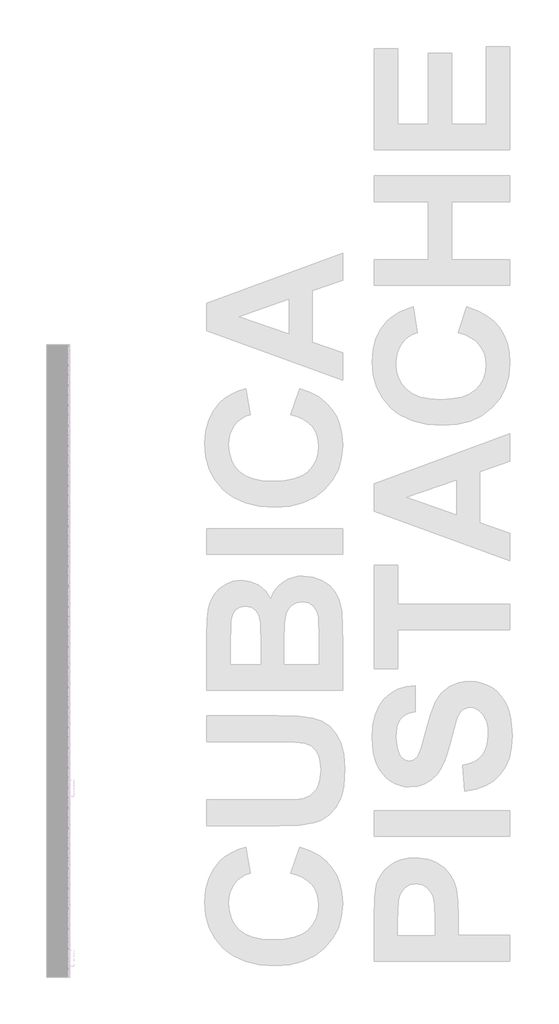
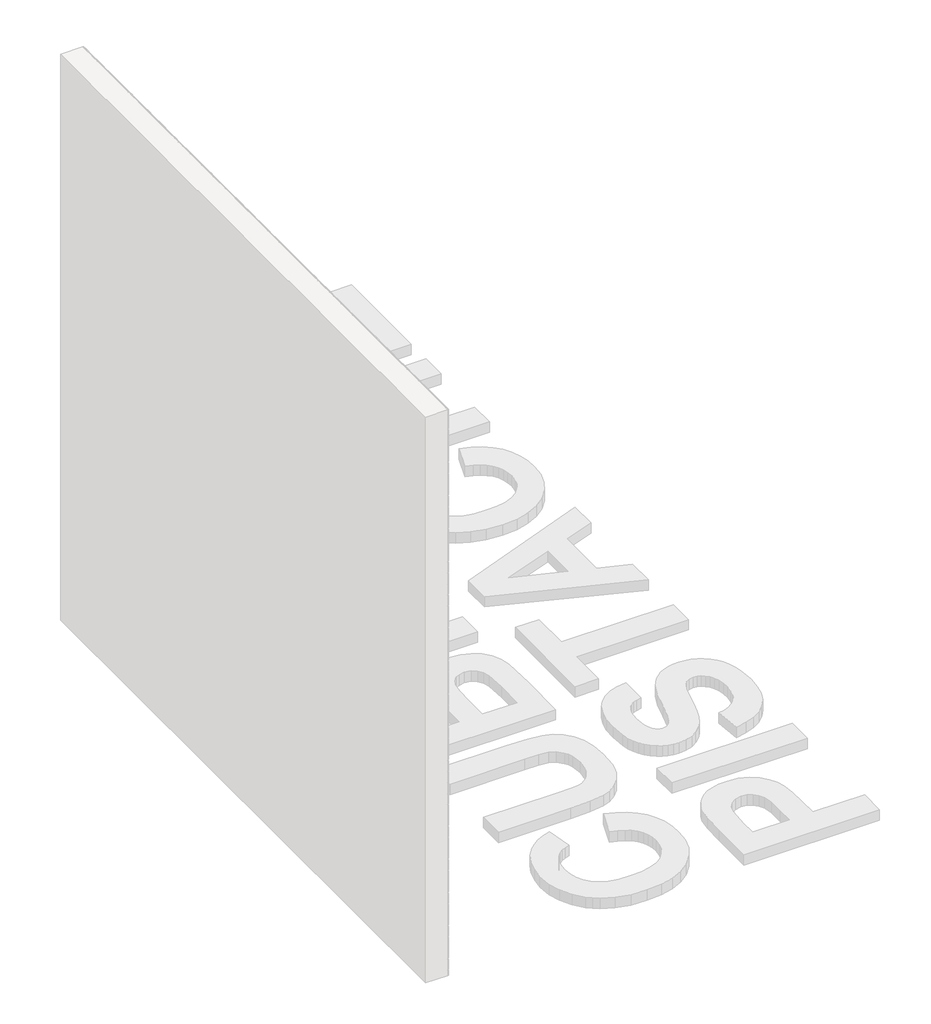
# One storey, part 90 of 121: 145 proxies.
"""IFC4 building model written with IfcOpenShell, lengths in millimetres."""

from ifc_helpers import new_model, si_unit, origin, place, context, project, spatial, transform, mapped, element, save
from components import generic_models_b2b2c5c1, generic_models_9bf73f6f, generic_models_5d175859

model = new_model("IFC4")

# Units and contexts
model_context = context("Model", 3, world=origin())
ifc_project = project(units=[si_unit("LENGTHUNIT", "METRE", prefix="MILLI")], contexts=[model_context])

# Site, building, storey
site = spatial("IfcSite", under=ifc_project)
building = spatial("IfcBuilding", under=site)
storey = spatial("IfcBuildingStorey", under=building, Name="PORTOBELLO - SHOWROOM", Elevation=0.0)

# Proxies
placement = place(None, origin())
generic_models_shape = generic_models_b2b2c5c1(model_context)
element("IfcBuildingElementProxy", 1, Name="PBSHOP - CUBICA PISTACHE 4,8X8,3 : CUBICA PISTACHE - POSIÇÃO 01", ObjectType="PBSHOP - CUBICA PISTACHE 4,8X8,3 : CUBICA PISTACHE - POSIÇÃO 01", at=placement, inside=storey, context=model_context, shape_type="MappedRepresentation", body=[
    mapped(generic_models_shape, transform((150369.5341846, 14159.1367842, 2091.7227645), x_axis=(0.0, 1.0, 0.0), y_axis=(0.0, 0.0, 1.0), z_axis=(1.0, 0.0, 0.0))),
])
element("IfcBuildingElementProxy", 2, Name="PBSHOP - CUBICA PISTACHE 4,8X8,3 : CUBICA PISTACHE - POSIÇÃO 01", ObjectType="PBSHOP - CUBICA PISTACHE 4,8X8,3 : CUBICA PISTACHE - POSIÇÃO 01", at=placement, inside=storey, context=model_context, shape_type="MappedRepresentation", body=[
    mapped(generic_models_shape, transform((150369.5341846, 14249.9760535, 2091.7227645), x_axis=(0.0, 1.0, 0.0), y_axis=(0.0, 0.0, 1.0), z_axis=(1.0, 0.0, 0.0))),
])
element("IfcBuildingElementProxy", 3, Name="PBSHOP - CUBICA PISTACHE 4,8X8,3 : CUBICA PISTACHE - POSIÇÃO 01", ObjectType="PBSHOP - CUBICA PISTACHE 4,8X8,3 : CUBICA PISTACHE - POSIÇÃO 01", at=placement, inside=storey, context=model_context, shape_type="MappedRepresentation", body=[
    mapped(generic_models_shape, transform((150369.5341846, 14340.8153227, 2091.7227645), x_axis=(0.0, 1.0, 0.0), y_axis=(0.0, 0.0, 1.0), z_axis=(1.0, 0.0, 0.0))),
])
element("IfcBuildingElementProxy", 4, Name="PBSHOP - CUBICA PISTACHE 4,8X8,3 : CUBICA PISTACHE - POSIÇÃO 01", ObjectType="PBSHOP - CUBICA PISTACHE 4,8X8,3 : CUBICA PISTACHE - POSIÇÃO 01", at=placement, inside=storey, context=model_context, shape_type="MappedRepresentation", body=[
    mapped(generic_models_shape, transform((150369.5341846, 14431.654592, 2091.7227645), x_axis=(0.0, 1.0, 0.0), y_axis=(0.0, 0.0, 1.0), z_axis=(1.0, 0.0, 0.0))),
])
element("IfcBuildingElementProxy", 5, Name="PBSHOP - CUBICA PISTACHE 4,8X8,3 : CUBICA PISTACHE - POSIÇÃO 01", ObjectType="PBSHOP - CUBICA PISTACHE 4,8X8,3 : CUBICA PISTACHE - POSIÇÃO 01", at=placement, inside=storey, context=model_context, shape_type="MappedRepresentation", body=[
    mapped(generic_models_shape, transform((150369.5341846, 14522.4938612, 2091.7227645), x_axis=(0.0, 1.0, 0.0), y_axis=(0.0, 0.0, 1.0), z_axis=(1.0, 0.0, 0.0))),
])
element("IfcBuildingElementProxy", 6, Name="PBSHOP - CUBICA PISTACHE 4,8X8,3 : CUBICA PISTACHE - POSIÇÃO 01", ObjectType="PBSHOP - CUBICA PISTACHE 4,8X8,3 : CUBICA PISTACHE - POSIÇÃO 01", at=placement, inside=storey, context=model_context, shape_type="MappedRepresentation", body=[
    mapped(generic_models_shape, transform((150369.5341846, 14613.3331304, 2091.7227645), x_axis=(0.0, 1.0, 0.0), y_axis=(0.0, 0.0, 1.0), z_axis=(1.0, 0.0, 0.0))),
])
element("IfcBuildingElementProxy", 7, Name="PBSHOP - CUBICA PISTACHE 4,8X8,3 : CUBICA PISTACHE - POSIÇÃO 01", ObjectType="PBSHOP - CUBICA PISTACHE 4,8X8,3 : CUBICA PISTACHE - POSIÇÃO 01", at=placement, inside=storey, context=model_context, shape_type="MappedRepresentation", body=[
    mapped(generic_models_shape, transform((150369.5341846, 14704.1723997, 2091.7227645), x_axis=(0.0, 1.0, 0.0), y_axis=(0.0, 0.0, 1.0), z_axis=(1.0, 0.0, 0.0))),
])
element("IfcBuildingElementProxy", 8, Name="PBSHOP - CUBICA PISTACHE 4,8X8,3 : CUBICA PISTACHE - POSIÇÃO 01", ObjectType="PBSHOP - CUBICA PISTACHE 4,8X8,3 : CUBICA PISTACHE - POSIÇÃO 01", at=placement, inside=storey, context=model_context, shape_type="MappedRepresentation", body=[
    mapped(generic_models_shape, transform((150369.5341846, 14795.0116689, 2091.7227645), x_axis=(0.0, 1.0, 0.0), y_axis=(0.0, 0.0, 1.0), z_axis=(1.0, 0.0, 0.0))),
])
element("IfcBuildingElementProxy", 9, Name="PBSHOP - CUBICA PISTACHE 4,8X8,3 : CUBICA PISTACHE - POSIÇÃO 01", ObjectType="PBSHOP - CUBICA PISTACHE 4,8X8,3 : CUBICA PISTACHE - POSIÇÃO 01", at=placement, inside=storey, context=model_context, shape_type="MappedRepresentation", body=[
    mapped(generic_models_shape, transform((150369.5341846, 14885.8509382, 2091.7227645), x_axis=(0.0, 1.0, 0.0), y_axis=(0.0, 0.0, 1.0), z_axis=(1.0, 0.0, 0.0))),
])
element("IfcBuildingElementProxy", 10, Name="PBSHOP - CUBICA PISTACHE 4,8X8,3 : CUBICA PISTACHE - POSIÇÃO 01", ObjectType="PBSHOP - CUBICA PISTACHE 4,8X8,3 : CUBICA PISTACHE - POSIÇÃO 01", at=placement, inside=storey, context=model_context, shape_type="MappedRepresentation", body=[
    mapped(generic_models_shape, transform((150369.5341846, 14976.6902074, 2091.7227645), x_axis=(0.0, 1.0, 0.0), y_axis=(0.0, 0.0, 1.0), z_axis=(1.0, 0.0, 0.0))),
])
element("IfcBuildingElementProxy", 11, Name="PBSHOP - CUBICA PISTACHE 4,8X8,3 : CUBICA PISTACHE - POSIÇÃO 01", ObjectType="PBSHOP - CUBICA PISTACHE 4,8X8,3 : CUBICA PISTACHE - POSIÇÃO 01", at=placement, inside=storey, context=model_context, shape_type="MappedRepresentation", body=[
    mapped(generic_models_shape, transform((150369.5341846, 14022.8778804, 2170.6574029), x_axis=(0.0, 1.0, 0.0), y_axis=(0.0, 0.0, 1.0), z_axis=(1.0, 0.0, 0.0))),
])
element("IfcBuildingElementProxy", 12, Name="PBSHOP - CUBICA PISTACHE 4,8X8,3 : CUBICA PISTACHE - POSIÇÃO 01", ObjectType="PBSHOP - CUBICA PISTACHE 4,8X8,3 : CUBICA PISTACHE - POSIÇÃO 01", at=placement, inside=storey, context=model_context, shape_type="MappedRepresentation", body=[
    mapped(generic_models_shape, transform((150369.5341846, 14113.7171496, 2170.6574029), x_axis=(0.0, 1.0, 0.0), y_axis=(0.0, 0.0, 1.0), z_axis=(1.0, 0.0, 0.0))),
])
element("IfcBuildingElementProxy", 13, Name="PBSHOP - CUBICA PISTACHE 4,8X8,3 : CUBICA PISTACHE - POSIÇÃO 01", ObjectType="PBSHOP - CUBICA PISTACHE 4,8X8,3 : CUBICA PISTACHE - POSIÇÃO 01", at=placement, inside=storey, context=model_context, shape_type="MappedRepresentation", body=[
    mapped(generic_models_shape, transform((150369.5341846, 14204.5564189, 2170.6574029), x_axis=(0.0, 1.0, 0.0), y_axis=(0.0, 0.0, 1.0), z_axis=(1.0, 0.0, 0.0))),
])
element("IfcBuildingElementProxy", 14, Name="PBSHOP - CUBICA PISTACHE 4,8X8,3 : CUBICA PISTACHE - POSIÇÃO 01", ObjectType="PBSHOP - CUBICA PISTACHE 4,8X8,3 : CUBICA PISTACHE - POSIÇÃO 01", at=placement, inside=storey, context=model_context, shape_type="MappedRepresentation", body=[
    mapped(generic_models_shape, transform((150369.5341846, 14295.3956881, 2170.6574029), x_axis=(0.0, 1.0, 0.0), y_axis=(0.0, 0.0, 1.0), z_axis=(1.0, 0.0, 0.0))),
])
element("IfcBuildingElementProxy", 15, Name="PBSHOP - CUBICA PISTACHE 4,8X8,3 : CUBICA PISTACHE - POSIÇÃO 01", ObjectType="PBSHOP - CUBICA PISTACHE 4,8X8,3 : CUBICA PISTACHE - POSIÇÃO 01", at=placement, inside=storey, context=model_context, shape_type="MappedRepresentation", body=[
    mapped(generic_models_shape, transform((150369.5341846, 14386.2349573, 2170.6574029), x_axis=(0.0, 1.0, 0.0), y_axis=(0.0, 0.0, 1.0), z_axis=(1.0, 0.0, 0.0))),
])
element("IfcBuildingElementProxy", 16, Name="PBSHOP - CUBICA PISTACHE 4,8X8,3 : CUBICA PISTACHE - POSIÇÃO 01", ObjectType="PBSHOP - CUBICA PISTACHE 4,8X8,3 : CUBICA PISTACHE - POSIÇÃO 01", at=placement, inside=storey, context=model_context, shape_type="MappedRepresentation", body=[
    mapped(generic_models_shape, transform((150369.5341846, 14477.0742266, 2170.6574029), x_axis=(0.0, 1.0, 0.0), y_axis=(0.0, 0.0, 1.0), z_axis=(1.0, 0.0, 0.0))),
])
element("IfcBuildingElementProxy", 17, Name="PBSHOP - CUBICA PISTACHE 4,8X8,3 : CUBICA PISTACHE - POSIÇÃO 01", ObjectType="PBSHOP - CUBICA PISTACHE 4,8X8,3 : CUBICA PISTACHE - POSIÇÃO 01", at=placement, inside=storey, context=model_context, shape_type="MappedRepresentation", body=[
    mapped(generic_models_shape, transform((150369.5341846, 14567.9134958, 2170.6574029), x_axis=(0.0, 1.0, 0.0), y_axis=(0.0, 0.0, 1.0), z_axis=(1.0, 0.0, 0.0))),
])
element("IfcBuildingElementProxy", 18, Name="PBSHOP - CUBICA PISTACHE 4,8X8,3 : CUBICA PISTACHE - POSIÇÃO 01", ObjectType="PBSHOP - CUBICA PISTACHE 4,8X8,3 : CUBICA PISTACHE - POSIÇÃO 01", at=placement, inside=storey, context=model_context, shape_type="MappedRepresentation", body=[
    mapped(generic_models_shape, transform((150369.5341846, 14658.7527651, 2170.6574029), x_axis=(0.0, 1.0, 0.0), y_axis=(0.0, 0.0, 1.0), z_axis=(1.0, 0.0, 0.0))),
])
element("IfcBuildingElementProxy", 19, Name="PBSHOP - CUBICA PISTACHE 4,8X8,3 : CUBICA PISTACHE - POSIÇÃO 01", ObjectType="PBSHOP - CUBICA PISTACHE 4,8X8,3 : CUBICA PISTACHE - POSIÇÃO 01", at=placement, inside=storey, context=model_context, shape_type="MappedRepresentation", body=[
    mapped(generic_models_shape, transform((150369.5341846, 14749.5920343, 2170.6574029), x_axis=(0.0, 1.0, 0.0), y_axis=(0.0, 0.0, 1.0), z_axis=(1.0, 0.0, 0.0))),
])
element("IfcBuildingElementProxy", 20, Name="PBSHOP - CUBICA PISTACHE 4,8X8,3 : CUBICA PISTACHE - POSIÇÃO 01", ObjectType="PBSHOP - CUBICA PISTACHE 4,8X8,3 : CUBICA PISTACHE - POSIÇÃO 01", at=placement, inside=storey, context=model_context, shape_type="MappedRepresentation", body=[
    mapped(generic_models_shape, transform((150369.5341846, 14840.4313036, 2170.6574029), x_axis=(0.0, 1.0, 0.0), y_axis=(0.0, 0.0, 1.0), z_axis=(1.0, 0.0, 0.0))),
])
element("IfcBuildingElementProxy", 21, Name="PBSHOP - CUBICA PISTACHE 4,8X8,3 : CUBICA PISTACHE - POSIÇÃO 01", ObjectType="PBSHOP - CUBICA PISTACHE 4,8X8,3 : CUBICA PISTACHE - POSIÇÃO 01", at=placement, inside=storey, context=model_context, shape_type="MappedRepresentation", body=[
    mapped(generic_models_shape, transform((150369.5341846, 14931.2705728, 2170.6574029), x_axis=(0.0, 1.0, 0.0), y_axis=(0.0, 0.0, 1.0), z_axis=(1.0, 0.0, 0.0))),
])
element("IfcBuildingElementProxy", 22, Name="PBSHOP - CUBICA PISTACHE 4,8X8,3 : CUBICA PISTACHE - POSIÇÃO 01", ObjectType="PBSHOP - CUBICA PISTACHE 4,8X8,3 : CUBICA PISTACHE - POSIÇÃO 01", at=placement, inside=storey, context=model_context, shape_type="MappedRepresentation", body=[
    mapped(generic_models_shape, transform((150369.5341846, 14068.297515, 2249.5920413), x_axis=(0.0, 1.0, 0.0), y_axis=(0.0, 0.0, 1.0), z_axis=(1.0, 0.0, 0.0))),
])
element("IfcBuildingElementProxy", 23, Name="PBSHOP - CUBICA PISTACHE 4,8X8,3 : CUBICA PISTACHE - POSIÇÃO 01", ObjectType="PBSHOP - CUBICA PISTACHE 4,8X8,3 : CUBICA PISTACHE - POSIÇÃO 01", at=placement, inside=storey, context=model_context, shape_type="MappedRepresentation", body=[
    mapped(generic_models_shape, transform((150369.5341846, 14159.1367842, 2249.5920413), x_axis=(0.0, 1.0, 0.0), y_axis=(0.0, 0.0, 1.0), z_axis=(1.0, 0.0, 0.0))),
])
element("IfcBuildingElementProxy", 24, Name="PBSHOP - CUBICA PISTACHE 4,8X8,3 : CUBICA PISTACHE - POSIÇÃO 01", ObjectType="PBSHOP - CUBICA PISTACHE 4,8X8,3 : CUBICA PISTACHE - POSIÇÃO 01", at=placement, inside=storey, context=model_context, shape_type="MappedRepresentation", body=[
    mapped(generic_models_shape, transform((150369.5341846, 14249.9760535, 2249.5920413), x_axis=(0.0, 1.0, 0.0), y_axis=(0.0, 0.0, 1.0), z_axis=(1.0, 0.0, 0.0))),
])
element("IfcBuildingElementProxy", 25, Name="PBSHOP - CUBICA PISTACHE 4,8X8,3 : CUBICA PISTACHE - POSIÇÃO 01", ObjectType="PBSHOP - CUBICA PISTACHE 4,8X8,3 : CUBICA PISTACHE - POSIÇÃO 01", at=placement, inside=storey, context=model_context, shape_type="MappedRepresentation", body=[
    mapped(generic_models_shape, transform((150369.5341846, 14340.8153227, 2249.5920413), x_axis=(0.0, 1.0, 0.0), y_axis=(0.0, 0.0, 1.0), z_axis=(1.0, 0.0, 0.0))),
])
element("IfcBuildingElementProxy", 26, Name="PBSHOP - CUBICA PISTACHE 4,8X8,3 : CUBICA PISTACHE - POSIÇÃO 01", ObjectType="PBSHOP - CUBICA PISTACHE 4,8X8,3 : CUBICA PISTACHE - POSIÇÃO 01", at=placement, inside=storey, context=model_context, shape_type="MappedRepresentation", body=[
    mapped(generic_models_shape, transform((150369.5341846, 14431.654592, 2249.5920413), x_axis=(0.0, 1.0, 0.0), y_axis=(0.0, 0.0, 1.0), z_axis=(1.0, 0.0, 0.0))),
])
element("IfcBuildingElementProxy", 27, Name="PBSHOP - CUBICA PISTACHE 4,8X8,3 : CUBICA PISTACHE - POSIÇÃO 01", ObjectType="PBSHOP - CUBICA PISTACHE 4,8X8,3 : CUBICA PISTACHE - POSIÇÃO 01", at=placement, inside=storey, context=model_context, shape_type="MappedRepresentation", body=[
    mapped(generic_models_shape, transform((150369.5341846, 14522.4938612, 2249.5920413), x_axis=(0.0, 1.0, 0.0), y_axis=(0.0, 0.0, 1.0), z_axis=(1.0, 0.0, 0.0))),
])
element("IfcBuildingElementProxy", 28, Name="PBSHOP - CUBICA PISTACHE 4,8X8,3 : CUBICA PISTACHE - POSIÇÃO 01", ObjectType="PBSHOP - CUBICA PISTACHE 4,8X8,3 : CUBICA PISTACHE - POSIÇÃO 01", at=placement, inside=storey, context=model_context, shape_type="MappedRepresentation", body=[
    mapped(generic_models_shape, transform((150369.5341846, 14613.3331304, 2249.5920413), x_axis=(0.0, 1.0, 0.0), y_axis=(0.0, 0.0, 1.0), z_axis=(1.0, 0.0, 0.0))),
])
element("IfcBuildingElementProxy", 29, Name="PBSHOP - CUBICA PISTACHE 4,8X8,3 : CUBICA PISTACHE - POSIÇÃO 01", ObjectType="PBSHOP - CUBICA PISTACHE 4,8X8,3 : CUBICA PISTACHE - POSIÇÃO 01", at=placement, inside=storey, context=model_context, shape_type="MappedRepresentation", body=[
    mapped(generic_models_shape, transform((150369.5341846, 14704.1723997, 2249.5920413), x_axis=(0.0, 1.0, 0.0), y_axis=(0.0, 0.0, 1.0), z_axis=(1.0, 0.0, 0.0))),
])
element("IfcBuildingElementProxy", 30, Name="PBSHOP - CUBICA PISTACHE 4,8X8,3 : CUBICA PISTACHE - POSIÇÃO 01", ObjectType="PBSHOP - CUBICA PISTACHE 4,8X8,3 : CUBICA PISTACHE - POSIÇÃO 01", at=placement, inside=storey, context=model_context, shape_type="MappedRepresentation", body=[
    mapped(generic_models_shape, transform((150369.5341846, 14795.0116689, 2249.5920413), x_axis=(0.0, 1.0, 0.0), y_axis=(0.0, 0.0, 1.0), z_axis=(1.0, 0.0, 0.0))),
])
element("IfcBuildingElementProxy", 31, Name="PBSHOP - CUBICA PISTACHE 4,8X8,3 : CUBICA PISTACHE - POSIÇÃO 01", ObjectType="PBSHOP - CUBICA PISTACHE 4,8X8,3 : CUBICA PISTACHE - POSIÇÃO 01", at=placement, inside=storey, context=model_context, shape_type="MappedRepresentation", body=[
    mapped(generic_models_shape, transform((150369.5341846, 14885.8509382, 2249.5920413), x_axis=(0.0, 1.0, 0.0), y_axis=(0.0, 0.0, 1.0), z_axis=(1.0, 0.0, 0.0))),
])
element("IfcBuildingElementProxy", 32, Name="PBSHOP - CUBICA PISTACHE 4,8X8,3 : CUBICA PISTACHE - POSIÇÃO 01", ObjectType="PBSHOP - CUBICA PISTACHE 4,8X8,3 : CUBICA PISTACHE - POSIÇÃO 01", at=placement, inside=storey, context=model_context, shape_type="MappedRepresentation", body=[
    mapped(generic_models_shape, transform((150369.5341846, 14976.6902074, 2249.5920413), x_axis=(0.0, 1.0, 0.0), y_axis=(0.0, 0.0, 1.0), z_axis=(1.0, 0.0, 0.0))),
])
element("IfcBuildingElementProxy", 33, Name="PBSHOP - CUBICA PISTACHE 4,8X8,3 : CUBICA PISTACHE - POSIÇÃO 01", ObjectType="PBSHOP - CUBICA PISTACHE 4,8X8,3 : CUBICA PISTACHE - POSIÇÃO 01", at=placement, inside=storey, context=model_context, shape_type="MappedRepresentation", body=[
    mapped(generic_models_shape, transform((150369.5341846, 14022.8778804, 2328.5266797), x_axis=(0.0, 1.0, 0.0), y_axis=(0.0, 0.0, 1.0), z_axis=(1.0, 0.0, 0.0))),
])
element("IfcBuildingElementProxy", 34, Name="PBSHOP - CUBICA PISTACHE 4,8X8,3 : CUBICA PISTACHE - POSIÇÃO 01", ObjectType="PBSHOP - CUBICA PISTACHE 4,8X8,3 : CUBICA PISTACHE - POSIÇÃO 01", at=placement, inside=storey, context=model_context, shape_type="MappedRepresentation", body=[
    mapped(generic_models_shape, transform((150369.5341846, 14113.7171496, 2328.5266797), x_axis=(0.0, 1.0, 0.0), y_axis=(0.0, 0.0, 1.0), z_axis=(1.0, 0.0, 0.0))),
])
element("IfcBuildingElementProxy", 35, Name="PBSHOP - CUBICA PISTACHE 4,8X8,3 : CUBICA PISTACHE - POSIÇÃO 01", ObjectType="PBSHOP - CUBICA PISTACHE 4,8X8,3 : CUBICA PISTACHE - POSIÇÃO 01", at=placement, inside=storey, context=model_context, shape_type="MappedRepresentation", body=[
    mapped(generic_models_shape, transform((150369.5341846, 14204.5564189, 2328.5266797), x_axis=(0.0, 1.0, 0.0), y_axis=(0.0, 0.0, 1.0), z_axis=(1.0, 0.0, 0.0))),
])
element("IfcBuildingElementProxy", 36, Name="PBSHOP - CUBICA PISTACHE 4,8X8,3 : CUBICA PISTACHE - POSIÇÃO 01", ObjectType="PBSHOP - CUBICA PISTACHE 4,8X8,3 : CUBICA PISTACHE - POSIÇÃO 01", at=placement, inside=storey, context=model_context, shape_type="MappedRepresentation", body=[
    mapped(generic_models_shape, transform((150369.5341846, 14295.3956881, 2328.5266797), x_axis=(0.0, 1.0, 0.0), y_axis=(0.0, 0.0, 1.0), z_axis=(1.0, 0.0, 0.0))),
])
element("IfcBuildingElementProxy", 37, Name="PBSHOP - CUBICA PISTACHE 4,8X8,3 : CUBICA PISTACHE - POSIÇÃO 01", ObjectType="PBSHOP - CUBICA PISTACHE 4,8X8,3 : CUBICA PISTACHE - POSIÇÃO 01", at=placement, inside=storey, context=model_context, shape_type="MappedRepresentation", body=[
    mapped(generic_models_shape, transform((150369.5341846, 14386.2349573, 2328.5266797), x_axis=(0.0, 1.0, 0.0), y_axis=(0.0, 0.0, 1.0), z_axis=(1.0, 0.0, 0.0))),
])
element("IfcBuildingElementProxy", 38, Name="PBSHOP - CUBICA PISTACHE 4,8X8,3 : CUBICA PISTACHE - POSIÇÃO 01", ObjectType="PBSHOP - CUBICA PISTACHE 4,8X8,3 : CUBICA PISTACHE - POSIÇÃO 01", at=placement, inside=storey, context=model_context, shape_type="MappedRepresentation", body=[
    mapped(generic_models_shape, transform((150369.5341846, 14477.0742266, 2328.5266797), x_axis=(0.0, 1.0, 0.0), y_axis=(0.0, 0.0, 1.0), z_axis=(1.0, 0.0, 0.0))),
])
element("IfcBuildingElementProxy", 39, Name="PBSHOP - CUBICA PISTACHE 4,8X8,3 : CUBICA PISTACHE - POSIÇÃO 01", ObjectType="PBSHOP - CUBICA PISTACHE 4,8X8,3 : CUBICA PISTACHE - POSIÇÃO 01", at=placement, inside=storey, context=model_context, shape_type="MappedRepresentation", body=[
    mapped(generic_models_shape, transform((150369.5341846, 14567.9134958, 2328.5266797), x_axis=(0.0, 1.0, 0.0), y_axis=(0.0, 0.0, 1.0), z_axis=(1.0, 0.0, 0.0))),
])
element("IfcBuildingElementProxy", 40, Name="PBSHOP - CUBICA PISTACHE 4,8X8,3 : CUBICA PISTACHE - POSIÇÃO 01", ObjectType="PBSHOP - CUBICA PISTACHE 4,8X8,3 : CUBICA PISTACHE - POSIÇÃO 01", at=placement, inside=storey, context=model_context, shape_type="MappedRepresentation", body=[
    mapped(generic_models_shape, transform((150369.5341846, 14658.7527651, 2328.5266797), x_axis=(0.0, 1.0, 0.0), y_axis=(0.0, 0.0, 1.0), z_axis=(1.0, 0.0, 0.0))),
])
element("IfcBuildingElementProxy", 41, Name="PBSHOP - CUBICA PISTACHE 4,8X8,3 : CUBICA PISTACHE - POSIÇÃO 01", ObjectType="PBSHOP - CUBICA PISTACHE 4,8X8,3 : CUBICA PISTACHE - POSIÇÃO 01", at=placement, inside=storey, context=model_context, shape_type="MappedRepresentation", body=[
    mapped(generic_models_shape, transform((150369.5341846, 14749.5920343, 2328.5266797), x_axis=(0.0, 1.0, 0.0), y_axis=(0.0, 0.0, 1.0), z_axis=(1.0, 0.0, 0.0))),
])
element("IfcBuildingElementProxy", 42, Name="PBSHOP - CUBICA PISTACHE 4,8X8,3 : CUBICA PISTACHE - POSIÇÃO 01", ObjectType="PBSHOP - CUBICA PISTACHE 4,8X8,3 : CUBICA PISTACHE - POSIÇÃO 01", at=placement, inside=storey, context=model_context, shape_type="MappedRepresentation", body=[
    mapped(generic_models_shape, transform((150369.5341846, 14840.4313036, 2328.5266797), x_axis=(0.0, 1.0, 0.0), y_axis=(0.0, 0.0, 1.0), z_axis=(1.0, 0.0, 0.0))),
])
element("IfcBuildingElementProxy", 43, Name="PBSHOP - CUBICA PISTACHE 4,8X8,3 : CUBICA PISTACHE - POSIÇÃO 01", ObjectType="PBSHOP - CUBICA PISTACHE 4,8X8,3 : CUBICA PISTACHE - POSIÇÃO 01", at=placement, inside=storey, context=model_context, shape_type="MappedRepresentation", body=[
    mapped(generic_models_shape, transform((150369.5341846, 14931.2705728, 2328.5266797), x_axis=(0.0, 1.0, 0.0), y_axis=(0.0, 0.0, 1.0), z_axis=(1.0, 0.0, 0.0))),
])
element("IfcBuildingElementProxy", 44, Name="PBSHOP - CUBICA PISTACHE 4,8X8,3 : CUBICA PISTACHE - POSIÇÃO 01", ObjectType="PBSHOP - CUBICA PISTACHE 4,8X8,3 : CUBICA PISTACHE - POSIÇÃO 01", at=placement, inside=storey, context=model_context, shape_type="MappedRepresentation", body=[
    mapped(generic_models_shape, transform((150369.5341846, 14068.297515, 2407.461318), x_axis=(0.0, 1.0, 0.0), y_axis=(0.0, 0.0, 1.0), z_axis=(1.0, 0.0, 0.0))),
])
element("IfcBuildingElementProxy", 45, Name="PBSHOP - CUBICA PISTACHE 4,8X8,3 : CUBICA PISTACHE - POSIÇÃO 01", ObjectType="PBSHOP - CUBICA PISTACHE 4,8X8,3 : CUBICA PISTACHE - POSIÇÃO 01", at=placement, inside=storey, context=model_context, shape_type="MappedRepresentation", body=[
    mapped(generic_models_shape, transform((150369.5341846, 14159.1367842, 2407.461318), x_axis=(0.0, 1.0, 0.0), y_axis=(0.0, 0.0, 1.0), z_axis=(1.0, 0.0, 0.0))),
])
element("IfcBuildingElementProxy", 46, Name="PBSHOP - CUBICA PISTACHE 4,8X8,3 : CUBICA PISTACHE - POSIÇÃO 01", ObjectType="PBSHOP - CUBICA PISTACHE 4,8X8,3 : CUBICA PISTACHE - POSIÇÃO 01", at=placement, inside=storey, context=model_context, shape_type="MappedRepresentation", body=[
    mapped(generic_models_shape, transform((150369.5341846, 14249.9760535, 2407.461318), x_axis=(0.0, 1.0, 0.0), y_axis=(0.0, 0.0, 1.0), z_axis=(1.0, 0.0, 0.0))),
])
element("IfcBuildingElementProxy", 47, Name="PBSHOP - CUBICA PISTACHE 4,8X8,3 : CUBICA PISTACHE - POSIÇÃO 01", ObjectType="PBSHOP - CUBICA PISTACHE 4,8X8,3 : CUBICA PISTACHE - POSIÇÃO 01", at=placement, inside=storey, context=model_context, shape_type="MappedRepresentation", body=[
    mapped(generic_models_shape, transform((150369.5341846, 14340.8153227, 2407.461318), x_axis=(0.0, 1.0, 0.0), y_axis=(0.0, 0.0, 1.0), z_axis=(1.0, 0.0, 0.0))),
])
element("IfcBuildingElementProxy", 48, Name="PBSHOP - CUBICA PISTACHE 4,8X8,3 : CUBICA PISTACHE - POSIÇÃO 01", ObjectType="PBSHOP - CUBICA PISTACHE 4,8X8,3 : CUBICA PISTACHE - POSIÇÃO 01", at=placement, inside=storey, context=model_context, shape_type="MappedRepresentation", body=[
    mapped(generic_models_shape, transform((150369.5341846, 14431.654592, 2407.461318), x_axis=(0.0, 1.0, 0.0), y_axis=(0.0, 0.0, 1.0), z_axis=(1.0, 0.0, 0.0))),
])
element("IfcBuildingElementProxy", 49, Name="PBSHOP - CUBICA PISTACHE 4,8X8,3 : CUBICA PISTACHE - POSIÇÃO 01", ObjectType="PBSHOP - CUBICA PISTACHE 4,8X8,3 : CUBICA PISTACHE - POSIÇÃO 01", at=placement, inside=storey, context=model_context, shape_type="MappedRepresentation", body=[
    mapped(generic_models_shape, transform((150369.5341846, 14522.4938612, 2407.461318), x_axis=(0.0, 1.0, 0.0), y_axis=(0.0, 0.0, 1.0), z_axis=(1.0, 0.0, 0.0))),
])
element("IfcBuildingElementProxy", 50, Name="PBSHOP - CUBICA PISTACHE 4,8X8,3 : CUBICA PISTACHE - POSIÇÃO 01", ObjectType="PBSHOP - CUBICA PISTACHE 4,8X8,3 : CUBICA PISTACHE - POSIÇÃO 01", at=placement, inside=storey, context=model_context, shape_type="MappedRepresentation", body=[
    mapped(generic_models_shape, transform((150369.5341846, 14613.3331304, 2407.461318), x_axis=(0.0, 1.0, 0.0), y_axis=(0.0, 0.0, 1.0), z_axis=(1.0, 0.0, 0.0))),
])
generic_models_2_shape = generic_models_9bf73f6f(model_context)
element("IfcBuildingElementProxy", 51, Name="PBSHOP - CUBICA PISTACHE 4,8X8,3 : CUBICA PISTACHE - POSIÇÃO 03", ObjectType="PBSHOP - CUBICA PISTACHE 4,8X8,3 : CUBICA PISTACHE - POSIÇÃO 03", at=placement, inside=storey, context=model_context, shape_type="MappedRepresentation", body=[
    mapped(generic_models_2_shape, transform((150369.5341846, 14045.5898568, 2052.2142349), x_axis=(0.0, 1.0, 0.0), y_axis=(0.0, 0.0, 1.0), z_axis=(1.0, 0.0, 0.0))),
])
element("IfcBuildingElementProxy", 52, Name="PBSHOP - CUBICA PISTACHE 4,8X8,3 : CUBICA PISTACHE - POSIÇÃO 03", ObjectType="PBSHOP - CUBICA PISTACHE 4,8X8,3 : CUBICA PISTACHE - POSIÇÃO 03", at=placement, inside=storey, context=model_context, shape_type="MappedRepresentation", body=[
    mapped(generic_models_2_shape, transform((150369.5341846, 14136.4291261, 2052.2142349), x_axis=(0.0, 1.0, 0.0), y_axis=(0.0, 0.0, 1.0), z_axis=(1.0, 0.0, 0.0))),
])
element("IfcBuildingElementProxy", 53, Name="PBSHOP - CUBICA PISTACHE 4,8X8,3 : CUBICA PISTACHE - POSIÇÃO 03", ObjectType="PBSHOP - CUBICA PISTACHE 4,8X8,3 : CUBICA PISTACHE - POSIÇÃO 03", at=placement, inside=storey, context=model_context, shape_type="MappedRepresentation", body=[
    mapped(generic_models_2_shape, transform((150369.5341846, 14227.2683953, 2052.2142349), x_axis=(0.0, 1.0, 0.0), y_axis=(0.0, 0.0, 1.0), z_axis=(1.0, 0.0, 0.0))),
])
element("IfcBuildingElementProxy", 54, Name="PBSHOP - CUBICA PISTACHE 4,8X8,3 : CUBICA PISTACHE - POSIÇÃO 03", ObjectType="PBSHOP - CUBICA PISTACHE 4,8X8,3 : CUBICA PISTACHE - POSIÇÃO 03", at=placement, inside=storey, context=model_context, shape_type="MappedRepresentation", body=[
    mapped(generic_models_2_shape, transform((150369.5341846, 14318.1076646, 2052.2142349), x_axis=(0.0, 1.0, 0.0), y_axis=(0.0, 0.0, 1.0), z_axis=(1.0, 0.0, 0.0))),
])
element("IfcBuildingElementProxy", 55, Name="PBSHOP - CUBICA PISTACHE 4,8X8,3 : CUBICA PISTACHE - POSIÇÃO 03", ObjectType="PBSHOP - CUBICA PISTACHE 4,8X8,3 : CUBICA PISTACHE - POSIÇÃO 03", at=placement, inside=storey, context=model_context, shape_type="MappedRepresentation", body=[
    mapped(generic_models_2_shape, transform((150369.5341846, 14408.9469338, 2052.2142349), x_axis=(0.0, 1.0, 0.0), y_axis=(0.0, 0.0, 1.0), z_axis=(1.0, 0.0, 0.0))),
])
element("IfcBuildingElementProxy", 56, Name="PBSHOP - CUBICA PISTACHE 4,8X8,3 : CUBICA PISTACHE - POSIÇÃO 03", ObjectType="PBSHOP - CUBICA PISTACHE 4,8X8,3 : CUBICA PISTACHE - POSIÇÃO 03", at=placement, inside=storey, context=model_context, shape_type="MappedRepresentation", body=[
    mapped(generic_models_2_shape, transform((150369.5341846, 14499.7862031, 2052.2142349), x_axis=(0.0, 1.0, 0.0), y_axis=(0.0, 0.0, 1.0), z_axis=(1.0, 0.0, 0.0))),
])
element("IfcBuildingElementProxy", 57, Name="PBSHOP - CUBICA PISTACHE 4,8X8,3 : CUBICA PISTACHE - POSIÇÃO 03", ObjectType="PBSHOP - CUBICA PISTACHE 4,8X8,3 : CUBICA PISTACHE - POSIÇÃO 03", at=placement, inside=storey, context=model_context, shape_type="MappedRepresentation", body=[
    mapped(generic_models_2_shape, transform((150369.5341846, 14590.6254723, 2052.2142349), x_axis=(0.0, 1.0, 0.0), y_axis=(0.0, 0.0, 1.0), z_axis=(1.0, 0.0, 0.0))),
])
element("IfcBuildingElementProxy", 58, Name="PBSHOP - CUBICA PISTACHE 4,8X8,3 : CUBICA PISTACHE - POSIÇÃO 03", ObjectType="PBSHOP - CUBICA PISTACHE 4,8X8,3 : CUBICA PISTACHE - POSIÇÃO 03", at=placement, inside=storey, context=model_context, shape_type="MappedRepresentation", body=[
    mapped(generic_models_2_shape, transform((150369.5341846, 14681.4647415, 2052.2142349), x_axis=(0.0, 1.0, 0.0), y_axis=(0.0, 0.0, 1.0), z_axis=(1.0, 0.0, 0.0))),
])
element("IfcBuildingElementProxy", 59, Name="PBSHOP - CUBICA PISTACHE 4,8X8,3 : CUBICA PISTACHE - POSIÇÃO 03", ObjectType="PBSHOP - CUBICA PISTACHE 4,8X8,3 : CUBICA PISTACHE - POSIÇÃO 03", at=placement, inside=storey, context=model_context, shape_type="MappedRepresentation", body=[
    mapped(generic_models_2_shape, transform((150369.5341846, 14772.3040108, 2052.2142349), x_axis=(0.0, 1.0, 0.0), y_axis=(0.0, 0.0, 1.0), z_axis=(1.0, 0.0, 0.0))),
])
element("IfcBuildingElementProxy", 60, Name="PBSHOP - CUBICA PISTACHE 4,8X8,3 : CUBICA PISTACHE - POSIÇÃO 03", ObjectType="PBSHOP - CUBICA PISTACHE 4,8X8,3 : CUBICA PISTACHE - POSIÇÃO 03", at=placement, inside=storey, context=model_context, shape_type="MappedRepresentation", body=[
    mapped(generic_models_2_shape, transform((150369.5341846, 14863.14328, 2052.2142349), x_axis=(0.0, 1.0, 0.0), y_axis=(0.0, 0.0, 1.0), z_axis=(1.0, 0.0, 0.0))),
])
element("IfcBuildingElementProxy", 61, Name="PBSHOP - CUBICA PISTACHE 4,8X8,3 : CUBICA PISTACHE - POSIÇÃO 03", ObjectType="PBSHOP - CUBICA PISTACHE 4,8X8,3 : CUBICA PISTACHE - POSIÇÃO 03", at=placement, inside=storey, context=model_context, shape_type="MappedRepresentation", body=[
    mapped(generic_models_2_shape, transform((150369.5341846, 14953.9825493, 2052.2142349), x_axis=(0.0, 1.0, 0.0), y_axis=(0.0, 0.0, 1.0), z_axis=(1.0, 0.0, 0.0))),
])
element("IfcBuildingElementProxy", 62, Name="PBSHOP - CUBICA PISTACHE 4,8X8,3 : CUBICA PISTACHE - POSIÇÃO 03", ObjectType="PBSHOP - CUBICA PISTACHE 4,8X8,3 : CUBICA PISTACHE - POSIÇÃO 03", at=placement, inside=storey, context=model_context, shape_type="MappedRepresentation", body=[
    mapped(generic_models_2_shape, transform((150369.5341846, 14000.1702222, 2131.1488733), x_axis=(0.0, 1.0, 0.0), y_axis=(0.0, 0.0, 1.0), z_axis=(1.0, 0.0, 0.0))),
])
element("IfcBuildingElementProxy", 63, Name="PBSHOP - CUBICA PISTACHE 4,8X8,3 : CUBICA PISTACHE - POSIÇÃO 03", ObjectType="PBSHOP - CUBICA PISTACHE 4,8X8,3 : CUBICA PISTACHE - POSIÇÃO 03", at=placement, inside=storey, context=model_context, shape_type="MappedRepresentation", body=[
    mapped(generic_models_2_shape, transform((150369.5341846, 14091.0094915, 2131.1488733), x_axis=(0.0, 1.0, 0.0), y_axis=(0.0, 0.0, 1.0), z_axis=(1.0, 0.0, 0.0))),
])
element("IfcBuildingElementProxy", 64, Name="PBSHOP - CUBICA PISTACHE 4,8X8,3 : CUBICA PISTACHE - POSIÇÃO 03", ObjectType="PBSHOP - CUBICA PISTACHE 4,8X8,3 : CUBICA PISTACHE - POSIÇÃO 03", at=placement, inside=storey, context=model_context, shape_type="MappedRepresentation", body=[
    mapped(generic_models_2_shape, transform((150369.5341846, 14181.8487607, 2131.1488733), x_axis=(0.0, 1.0, 0.0), y_axis=(0.0, 0.0, 1.0), z_axis=(1.0, 0.0, 0.0))),
])
element("IfcBuildingElementProxy", 65, Name="PBSHOP - CUBICA PISTACHE 4,8X8,3 : CUBICA PISTACHE - POSIÇÃO 03", ObjectType="PBSHOP - CUBICA PISTACHE 4,8X8,3 : CUBICA PISTACHE - POSIÇÃO 03", at=placement, inside=storey, context=model_context, shape_type="MappedRepresentation", body=[
    mapped(generic_models_2_shape, transform((150369.5341846, 14272.6880299, 2131.1488733), x_axis=(0.0, 1.0, 0.0), y_axis=(0.0, 0.0, 1.0), z_axis=(1.0, 0.0, 0.0))),
])
element("IfcBuildingElementProxy", 66, Name="PBSHOP - CUBICA PISTACHE 4,8X8,3 : CUBICA PISTACHE - POSIÇÃO 03", ObjectType="PBSHOP - CUBICA PISTACHE 4,8X8,3 : CUBICA PISTACHE - POSIÇÃO 03", at=placement, inside=storey, context=model_context, shape_type="MappedRepresentation", body=[
    mapped(generic_models_2_shape, transform((150369.5341846, 14363.5272992, 2131.1488733), x_axis=(0.0, 1.0, 0.0), y_axis=(0.0, 0.0, 1.0), z_axis=(1.0, 0.0, 0.0))),
])
element("IfcBuildingElementProxy", 67, Name="PBSHOP - CUBICA PISTACHE 4,8X8,3 : CUBICA PISTACHE - POSIÇÃO 03", ObjectType="PBSHOP - CUBICA PISTACHE 4,8X8,3 : CUBICA PISTACHE - POSIÇÃO 03", at=placement, inside=storey, context=model_context, shape_type="MappedRepresentation", body=[
    mapped(generic_models_2_shape, transform((150369.5341846, 14454.3665684, 2131.1488733), x_axis=(0.0, 1.0, 0.0), y_axis=(0.0, 0.0, 1.0), z_axis=(1.0, 0.0, 0.0))),
])
element("IfcBuildingElementProxy", 68, Name="PBSHOP - CUBICA PISTACHE 4,8X8,3 : CUBICA PISTACHE - POSIÇÃO 03", ObjectType="PBSHOP - CUBICA PISTACHE 4,8X8,3 : CUBICA PISTACHE - POSIÇÃO 03", at=placement, inside=storey, context=model_context, shape_type="MappedRepresentation", body=[
    mapped(generic_models_2_shape, transform((150369.5341846, 14545.2058377, 2131.1488733), x_axis=(0.0, 1.0, 0.0), y_axis=(0.0, 0.0, 1.0), z_axis=(1.0, 0.0, 0.0))),
])
element("IfcBuildingElementProxy", 69, Name="PBSHOP - CUBICA PISTACHE 4,8X8,3 : CUBICA PISTACHE - POSIÇÃO 03", ObjectType="PBSHOP - CUBICA PISTACHE 4,8X8,3 : CUBICA PISTACHE - POSIÇÃO 03", at=placement, inside=storey, context=model_context, shape_type="MappedRepresentation", body=[
    mapped(generic_models_2_shape, transform((150369.5341846, 14636.0451069, 2131.1488733), x_axis=(0.0, 1.0, 0.0), y_axis=(0.0, 0.0, 1.0), z_axis=(1.0, 0.0, 0.0))),
])
element("IfcBuildingElementProxy", 70, Name="PBSHOP - CUBICA PISTACHE 4,8X8,3 : CUBICA PISTACHE - POSIÇÃO 03", ObjectType="PBSHOP - CUBICA PISTACHE 4,8X8,3 : CUBICA PISTACHE - POSIÇÃO 03", at=placement, inside=storey, context=model_context, shape_type="MappedRepresentation", body=[
    mapped(generic_models_2_shape, transform((150369.5341846, 14726.8843762, 2131.1488733), x_axis=(0.0, 1.0, 0.0), y_axis=(0.0, 0.0, 1.0), z_axis=(1.0, 0.0, 0.0))),
])
element("IfcBuildingElementProxy", 71, Name="PBSHOP - CUBICA PISTACHE 4,8X8,3 : CUBICA PISTACHE - POSIÇÃO 03", ObjectType="PBSHOP - CUBICA PISTACHE 4,8X8,3 : CUBICA PISTACHE - POSIÇÃO 03", at=placement, inside=storey, context=model_context, shape_type="MappedRepresentation", body=[
    mapped(generic_models_2_shape, transform((150369.5341846, 14817.7236454, 2131.1488733), x_axis=(0.0, 1.0, 0.0), y_axis=(0.0, 0.0, 1.0), z_axis=(1.0, 0.0, 0.0))),
])
element("IfcBuildingElementProxy", 72, Name="PBSHOP - CUBICA PISTACHE 4,8X8,3 : CUBICA PISTACHE - POSIÇÃO 03", ObjectType="PBSHOP - CUBICA PISTACHE 4,8X8,3 : CUBICA PISTACHE - POSIÇÃO 03", at=placement, inside=storey, context=model_context, shape_type="MappedRepresentation", body=[
    mapped(generic_models_2_shape, transform((150369.5341846, 14908.5629147, 2131.1488733), x_axis=(0.0, 1.0, 0.0), y_axis=(0.0, 0.0, 1.0), z_axis=(1.0, 0.0, 0.0))),
])
element("IfcBuildingElementProxy", 73, Name="PBSHOP - CUBICA PISTACHE 4,8X8,3 : CUBICA PISTACHE - POSIÇÃO 03", ObjectType="PBSHOP - CUBICA PISTACHE 4,8X8,3 : CUBICA PISTACHE - POSIÇÃO 03", at=placement, inside=storey, context=model_context, shape_type="MappedRepresentation", body=[
    mapped(generic_models_2_shape, transform((150369.5341846, 14999.4021839, 2131.1488733), x_axis=(0.0, 1.0, 0.0), y_axis=(0.0, 0.0, 1.0), z_axis=(1.0, 0.0, 0.0))),
])
element("IfcBuildingElementProxy", 74, Name="PBSHOP - CUBICA PISTACHE 4,8X8,3 : CUBICA PISTACHE - POSIÇÃO 03", ObjectType="PBSHOP - CUBICA PISTACHE 4,8X8,3 : CUBICA PISTACHE - POSIÇÃO 03", at=placement, inside=storey, context=model_context, shape_type="MappedRepresentation", body=[
    mapped(generic_models_2_shape, transform((150369.5341846, 14045.5898568, 2210.0835117), x_axis=(0.0, 1.0, 0.0), y_axis=(0.0, 0.0, 1.0), z_axis=(1.0, 0.0, 0.0))),
])
element("IfcBuildingElementProxy", 75, Name="PBSHOP - CUBICA PISTACHE 4,8X8,3 : CUBICA PISTACHE - POSIÇÃO 03", ObjectType="PBSHOP - CUBICA PISTACHE 4,8X8,3 : CUBICA PISTACHE - POSIÇÃO 03", at=placement, inside=storey, context=model_context, shape_type="MappedRepresentation", body=[
    mapped(generic_models_2_shape, transform((150369.5341846, 14136.4291261, 2210.0835117), x_axis=(0.0, 1.0, 0.0), y_axis=(0.0, 0.0, 1.0), z_axis=(1.0, 0.0, 0.0))),
])
element("IfcBuildingElementProxy", 76, Name="PBSHOP - CUBICA PISTACHE 4,8X8,3 : CUBICA PISTACHE - POSIÇÃO 03", ObjectType="PBSHOP - CUBICA PISTACHE 4,8X8,3 : CUBICA PISTACHE - POSIÇÃO 03", at=placement, inside=storey, context=model_context, shape_type="MappedRepresentation", body=[
    mapped(generic_models_2_shape, transform((150369.5341846, 14227.2683953, 2210.0835117), x_axis=(0.0, 1.0, 0.0), y_axis=(0.0, 0.0, 1.0), z_axis=(1.0, 0.0, 0.0))),
])
element("IfcBuildingElementProxy", 77, Name="PBSHOP - CUBICA PISTACHE 4,8X8,3 : CUBICA PISTACHE - POSIÇÃO 03", ObjectType="PBSHOP - CUBICA PISTACHE 4,8X8,3 : CUBICA PISTACHE - POSIÇÃO 03", at=placement, inside=storey, context=model_context, shape_type="MappedRepresentation", body=[
    mapped(generic_models_2_shape, transform((150369.5341846, 14318.1076646, 2210.0835117), x_axis=(0.0, 1.0, 0.0), y_axis=(0.0, 0.0, 1.0), z_axis=(1.0, 0.0, 0.0))),
])
element("IfcBuildingElementProxy", 78, Name="PBSHOP - CUBICA PISTACHE 4,8X8,3 : CUBICA PISTACHE - POSIÇÃO 03", ObjectType="PBSHOP - CUBICA PISTACHE 4,8X8,3 : CUBICA PISTACHE - POSIÇÃO 03", at=placement, inside=storey, context=model_context, shape_type="MappedRepresentation", body=[
    mapped(generic_models_2_shape, transform((150369.5341846, 14408.9469338, 2210.0835117), x_axis=(0.0, 1.0, 0.0), y_axis=(0.0, 0.0, 1.0), z_axis=(1.0, 0.0, 0.0))),
])
element("IfcBuildingElementProxy", 79, Name="PBSHOP - CUBICA PISTACHE 4,8X8,3 : CUBICA PISTACHE - POSIÇÃO 03", ObjectType="PBSHOP - CUBICA PISTACHE 4,8X8,3 : CUBICA PISTACHE - POSIÇÃO 03", at=placement, inside=storey, context=model_context, shape_type="MappedRepresentation", body=[
    mapped(generic_models_2_shape, transform((150369.5341846, 14499.7862031, 2210.0835117), x_axis=(0.0, 1.0, 0.0), y_axis=(0.0, 0.0, 1.0), z_axis=(1.0, 0.0, 0.0))),
])
element("IfcBuildingElementProxy", 80, Name="PBSHOP - CUBICA PISTACHE 4,8X8,3 : CUBICA PISTACHE - POSIÇÃO 03", ObjectType="PBSHOP - CUBICA PISTACHE 4,8X8,3 : CUBICA PISTACHE - POSIÇÃO 03", at=placement, inside=storey, context=model_context, shape_type="MappedRepresentation", body=[
    mapped(generic_models_2_shape, transform((150369.5341846, 14590.6254723, 2210.0835117), x_axis=(0.0, 1.0, 0.0), y_axis=(0.0, 0.0, 1.0), z_axis=(1.0, 0.0, 0.0))),
])
element("IfcBuildingElementProxy", 81, Name="PBSHOP - CUBICA PISTACHE 4,8X8,3 : CUBICA PISTACHE - POSIÇÃO 03", ObjectType="PBSHOP - CUBICA PISTACHE 4,8X8,3 : CUBICA PISTACHE - POSIÇÃO 03", at=placement, inside=storey, context=model_context, shape_type="MappedRepresentation", body=[
    mapped(generic_models_2_shape, transform((150369.5341846, 14681.4647415, 2210.0835117), x_axis=(0.0, 1.0, 0.0), y_axis=(0.0, 0.0, 1.0), z_axis=(1.0, 0.0, 0.0))),
])
element("IfcBuildingElementProxy", 82, Name="PBSHOP - CUBICA PISTACHE 4,8X8,3 : CUBICA PISTACHE - POSIÇÃO 03", ObjectType="PBSHOP - CUBICA PISTACHE 4,8X8,3 : CUBICA PISTACHE - POSIÇÃO 03", at=placement, inside=storey, context=model_context, shape_type="MappedRepresentation", body=[
    mapped(generic_models_2_shape, transform((150369.5341846, 14772.3040108, 2210.0835117), x_axis=(0.0, 1.0, 0.0), y_axis=(0.0, 0.0, 1.0), z_axis=(1.0, 0.0, 0.0))),
])
element("IfcBuildingElementProxy", 83, Name="PBSHOP - CUBICA PISTACHE 4,8X8,3 : CUBICA PISTACHE - POSIÇÃO 03", ObjectType="PBSHOP - CUBICA PISTACHE 4,8X8,3 : CUBICA PISTACHE - POSIÇÃO 03", at=placement, inside=storey, context=model_context, shape_type="MappedRepresentation", body=[
    mapped(generic_models_2_shape, transform((150369.5341846, 14863.14328, 2210.0835117), x_axis=(0.0, 1.0, 0.0), y_axis=(0.0, 0.0, 1.0), z_axis=(1.0, 0.0, 0.0))),
])
element("IfcBuildingElementProxy", 84, Name="PBSHOP - CUBICA PISTACHE 4,8X8,3 : CUBICA PISTACHE - POSIÇÃO 03", ObjectType="PBSHOP - CUBICA PISTACHE 4,8X8,3 : CUBICA PISTACHE - POSIÇÃO 03", at=placement, inside=storey, context=model_context, shape_type="MappedRepresentation", body=[
    mapped(generic_models_2_shape, transform((150369.5341846, 14953.9825493, 2210.0835117), x_axis=(0.0, 1.0, 0.0), y_axis=(0.0, 0.0, 1.0), z_axis=(1.0, 0.0, 0.0))),
])
element("IfcBuildingElementProxy", 85, Name="PBSHOP - CUBICA PISTACHE 4,8X8,3 : CUBICA PISTACHE - POSIÇÃO 03", ObjectType="PBSHOP - CUBICA PISTACHE 4,8X8,3 : CUBICA PISTACHE - POSIÇÃO 03", at=placement, inside=storey, context=model_context, shape_type="MappedRepresentation", body=[
    mapped(generic_models_2_shape, transform((150369.5341846, 14000.1702222, 2289.0181501), x_axis=(0.0, 1.0, 0.0), y_axis=(0.0, 0.0, 1.0), z_axis=(1.0, 0.0, 0.0))),
])
element("IfcBuildingElementProxy", 86, Name="PBSHOP - CUBICA PISTACHE 4,8X8,3 : CUBICA PISTACHE - POSIÇÃO 03", ObjectType="PBSHOP - CUBICA PISTACHE 4,8X8,3 : CUBICA PISTACHE - POSIÇÃO 03", at=placement, inside=storey, context=model_context, shape_type="MappedRepresentation", body=[
    mapped(generic_models_2_shape, transform((150369.5341846, 14091.0094915, 2289.0181501), x_axis=(0.0, 1.0, 0.0), y_axis=(0.0, 0.0, 1.0), z_axis=(1.0, 0.0, 0.0))),
])
element("IfcBuildingElementProxy", 87, Name="PBSHOP - CUBICA PISTACHE 4,8X8,3 : CUBICA PISTACHE - POSIÇÃO 03", ObjectType="PBSHOP - CUBICA PISTACHE 4,8X8,3 : CUBICA PISTACHE - POSIÇÃO 03", at=placement, inside=storey, context=model_context, shape_type="MappedRepresentation", body=[
    mapped(generic_models_2_shape, transform((150369.5341846, 14181.8487607, 2289.0181501), x_axis=(0.0, 1.0, 0.0), y_axis=(0.0, 0.0, 1.0), z_axis=(1.0, 0.0, 0.0))),
])
element("IfcBuildingElementProxy", 88, Name="PBSHOP - CUBICA PISTACHE 4,8X8,3 : CUBICA PISTACHE - POSIÇÃO 03", ObjectType="PBSHOP - CUBICA PISTACHE 4,8X8,3 : CUBICA PISTACHE - POSIÇÃO 03", at=placement, inside=storey, context=model_context, shape_type="MappedRepresentation", body=[
    mapped(generic_models_2_shape, transform((150369.5341846, 14272.6880299, 2289.0181501), x_axis=(0.0, 1.0, 0.0), y_axis=(0.0, 0.0, 1.0), z_axis=(1.0, 0.0, 0.0))),
])
element("IfcBuildingElementProxy", 89, Name="PBSHOP - CUBICA PISTACHE 4,8X8,3 : CUBICA PISTACHE - POSIÇÃO 03", ObjectType="PBSHOP - CUBICA PISTACHE 4,8X8,3 : CUBICA PISTACHE - POSIÇÃO 03", at=placement, inside=storey, context=model_context, shape_type="MappedRepresentation", body=[
    mapped(generic_models_2_shape, transform((150369.5341846, 14363.5272992, 2289.0181501), x_axis=(0.0, 1.0, 0.0), y_axis=(0.0, 0.0, 1.0), z_axis=(1.0, 0.0, 0.0))),
])
element("IfcBuildingElementProxy", 90, Name="PBSHOP - CUBICA PISTACHE 4,8X8,3 : CUBICA PISTACHE - POSIÇÃO 03", ObjectType="PBSHOP - CUBICA PISTACHE 4,8X8,3 : CUBICA PISTACHE - POSIÇÃO 03", at=placement, inside=storey, context=model_context, shape_type="MappedRepresentation", body=[
    mapped(generic_models_2_shape, transform((150369.5341846, 14454.3665684, 2289.0181501), x_axis=(0.0, 1.0, 0.0), y_axis=(0.0, 0.0, 1.0), z_axis=(1.0, 0.0, 0.0))),
])
element("IfcBuildingElementProxy", 91, Name="PBSHOP - CUBICA PISTACHE 4,8X8,3 : CUBICA PISTACHE - POSIÇÃO 03", ObjectType="PBSHOP - CUBICA PISTACHE 4,8X8,3 : CUBICA PISTACHE - POSIÇÃO 03", at=placement, inside=storey, context=model_context, shape_type="MappedRepresentation", body=[
    mapped(generic_models_2_shape, transform((150369.5341846, 14545.2058377, 2289.0181501), x_axis=(0.0, 1.0, 0.0), y_axis=(0.0, 0.0, 1.0), z_axis=(1.0, 0.0, 0.0))),
])
element("IfcBuildingElementProxy", 92, Name="PBSHOP - CUBICA PISTACHE 4,8X8,3 : CUBICA PISTACHE - POSIÇÃO 03", ObjectType="PBSHOP - CUBICA PISTACHE 4,8X8,3 : CUBICA PISTACHE - POSIÇÃO 03", at=placement, inside=storey, context=model_context, shape_type="MappedRepresentation", body=[
    mapped(generic_models_2_shape, transform((150369.5341846, 14636.0451069, 2289.0181501), x_axis=(0.0, 1.0, 0.0), y_axis=(0.0, 0.0, 1.0), z_axis=(1.0, 0.0, 0.0))),
])
element("IfcBuildingElementProxy", 93, Name="PBSHOP - CUBICA PISTACHE 4,8X8,3 : CUBICA PISTACHE - POSIÇÃO 03", ObjectType="PBSHOP - CUBICA PISTACHE 4,8X8,3 : CUBICA PISTACHE - POSIÇÃO 03", at=placement, inside=storey, context=model_context, shape_type="MappedRepresentation", body=[
    mapped(generic_models_2_shape, transform((150369.5341846, 14726.8843762, 2289.0181501), x_axis=(0.0, 1.0, 0.0), y_axis=(0.0, 0.0, 1.0), z_axis=(1.0, 0.0, 0.0))),
])
element("IfcBuildingElementProxy", 94, Name="PBSHOP - CUBICA PISTACHE 4,8X8,3 : CUBICA PISTACHE - POSIÇÃO 03", ObjectType="PBSHOP - CUBICA PISTACHE 4,8X8,3 : CUBICA PISTACHE - POSIÇÃO 03", at=placement, inside=storey, context=model_context, shape_type="MappedRepresentation", body=[
    mapped(generic_models_2_shape, transform((150369.5341846, 14817.7236454, 2289.0181501), x_axis=(0.0, 1.0, 0.0), y_axis=(0.0, 0.0, 1.0), z_axis=(1.0, 0.0, 0.0))),
])
element("IfcBuildingElementProxy", 95, Name="PBSHOP - CUBICA PISTACHE 4,8X8,3 : CUBICA PISTACHE - POSIÇÃO 03", ObjectType="PBSHOP - CUBICA PISTACHE 4,8X8,3 : CUBICA PISTACHE - POSIÇÃO 03", at=placement, inside=storey, context=model_context, shape_type="MappedRepresentation", body=[
    mapped(generic_models_2_shape, transform((150369.5341846, 14908.5629147, 2289.0181501), x_axis=(0.0, 1.0, 0.0), y_axis=(0.0, 0.0, 1.0), z_axis=(1.0, 0.0, 0.0))),
])
element("IfcBuildingElementProxy", 96, Name="PBSHOP - CUBICA PISTACHE 4,8X8,3 : CUBICA PISTACHE - POSIÇÃO 03", ObjectType="PBSHOP - CUBICA PISTACHE 4,8X8,3 : CUBICA PISTACHE - POSIÇÃO 03", at=placement, inside=storey, context=model_context, shape_type="MappedRepresentation", body=[
    mapped(generic_models_2_shape, transform((150369.5341846, 14999.4021839, 2289.0181501), x_axis=(0.0, 1.0, 0.0), y_axis=(0.0, 0.0, 1.0), z_axis=(1.0, 0.0, 0.0))),
])
generic_models_3_shape = generic_models_5d175859(model_context)
element("IfcBuildingElementProxy", 97, Name="PBSHOP - CUBICA PISTACHE 4,8X8,3 : CUBICA PISTACHE - POSIÇÃO 01", ObjectType="PBSHOP - CUBICA PISTACHE 4,8X8,3 : CUBICA PISTACHE - POSIÇÃO 01", at=placement, inside=storey, context=model_context, shape_type="MappedRepresentation", body=[
    mapped(generic_models_3_shape, transform((150369.5341846, 14204.5607372, 2091.7227645), x_axis=(0.0, -1.0, 0.0), y_axis=(0.0, 0.0, -1.0), z_axis=(1.0, 0.0, 0.0))),
])
element("IfcBuildingElementProxy", 98, Name="PBSHOP - CUBICA PISTACHE 4,8X8,3 : CUBICA PISTACHE - POSIÇÃO 01", ObjectType="PBSHOP - CUBICA PISTACHE 4,8X8,3 : CUBICA PISTACHE - POSIÇÃO 01", at=placement, inside=storey, context=model_context, shape_type="MappedRepresentation", body=[
    mapped(generic_models_3_shape, transform((150369.5341846, 14295.4000064, 2091.7227645), x_axis=(0.0, -1.0, 0.0), y_axis=(0.0, 0.0, -1.0), z_axis=(1.0, 0.0, 0.0))),
])
element("IfcBuildingElementProxy", 99, Name="PBSHOP - CUBICA PISTACHE 4,8X8,3 : CUBICA PISTACHE - POSIÇÃO 01", ObjectType="PBSHOP - CUBICA PISTACHE 4,8X8,3 : CUBICA PISTACHE - POSIÇÃO 01", at=placement, inside=storey, context=model_context, shape_type="MappedRepresentation", body=[
    mapped(generic_models_3_shape, transform((150369.5341846, 14386.2392757, 2091.7227645), x_axis=(0.0, -1.0, 0.0), y_axis=(0.0, 0.0, -1.0), z_axis=(1.0, 0.0, 0.0))),
])
element("IfcBuildingElementProxy", 100, Name="PBSHOP - CUBICA PISTACHE 4,8X8,3 : CUBICA PISTACHE - POSIÇÃO 01", ObjectType="PBSHOP - CUBICA PISTACHE 4,8X8,3 : CUBICA PISTACHE - POSIÇÃO 01", at=placement, inside=storey, context=model_context, shape_type="MappedRepresentation", body=[
    mapped(generic_models_3_shape, transform((150369.5341846, 14477.0785449, 2091.7227645), x_axis=(0.0, -1.0, 0.0), y_axis=(0.0, 0.0, -1.0), z_axis=(1.0, 0.0, 0.0))),
])
element("IfcBuildingElementProxy", 101, Name="PBSHOP - CUBICA PISTACHE 4,8X8,3 : CUBICA PISTACHE - POSIÇÃO 01", ObjectType="PBSHOP - CUBICA PISTACHE 4,8X8,3 : CUBICA PISTACHE - POSIÇÃO 01", at=placement, inside=storey, context=model_context, shape_type="MappedRepresentation", body=[
    mapped(generic_models_3_shape, transform((150369.5341846, 14567.9178142, 2091.7227645), x_axis=(0.0, -1.0, 0.0), y_axis=(0.0, 0.0, -1.0), z_axis=(1.0, 0.0, 0.0))),
])
element("IfcBuildingElementProxy", 102, Name="PBSHOP - CUBICA PISTACHE 4,8X8,3 : CUBICA PISTACHE - POSIÇÃO 01", ObjectType="PBSHOP - CUBICA PISTACHE 4,8X8,3 : CUBICA PISTACHE - POSIÇÃO 01", at=placement, inside=storey, context=model_context, shape_type="MappedRepresentation", body=[
    mapped(generic_models_3_shape, transform((150369.5341846, 14658.7570834, 2091.7227645), x_axis=(0.0, -1.0, 0.0), y_axis=(0.0, 0.0, -1.0), z_axis=(1.0, 0.0, 0.0))),
])
element("IfcBuildingElementProxy", 103, Name="PBSHOP - CUBICA PISTACHE 4,8X8,3 : CUBICA PISTACHE - POSIÇÃO 01", ObjectType="PBSHOP - CUBICA PISTACHE 4,8X8,3 : CUBICA PISTACHE - POSIÇÃO 01", at=placement, inside=storey, context=model_context, shape_type="MappedRepresentation", body=[
    mapped(generic_models_3_shape, transform((150369.5341846, 14749.5963526, 2091.7227645), x_axis=(0.0, -1.0, 0.0), y_axis=(0.0, 0.0, -1.0), z_axis=(1.0, 0.0, 0.0))),
])
element("IfcBuildingElementProxy", 104, Name="PBSHOP - CUBICA PISTACHE 4,8X8,3 : CUBICA PISTACHE - POSIÇÃO 01", ObjectType="PBSHOP - CUBICA PISTACHE 4,8X8,3 : CUBICA PISTACHE - POSIÇÃO 01", at=placement, inside=storey, context=model_context, shape_type="MappedRepresentation", body=[
    mapped(generic_models_3_shape, transform((150369.5341846, 14840.4356219, 2091.7227645), x_axis=(0.0, -1.0, 0.0), y_axis=(0.0, 0.0, -1.0), z_axis=(1.0, 0.0, 0.0))),
])
element("IfcBuildingElementProxy", 105, Name="PBSHOP - CUBICA PISTACHE 4,8X8,3 : CUBICA PISTACHE - POSIÇÃO 01", ObjectType="PBSHOP - CUBICA PISTACHE 4,8X8,3 : CUBICA PISTACHE - POSIÇÃO 01", at=placement, inside=storey, context=model_context, shape_type="MappedRepresentation", body=[
    mapped(generic_models_3_shape, transform((150369.5341846, 14931.2748911, 2091.7227645), x_axis=(0.0, -1.0, 0.0), y_axis=(0.0, 0.0, -1.0), z_axis=(1.0, 0.0, 0.0))),
])
element("IfcBuildingElementProxy", 106, Name="PBSHOP - CUBICA PISTACHE 4,8X8,3 : CUBICA PISTACHE - POSIÇÃO 01", ObjectType="PBSHOP - CUBICA PISTACHE 4,8X8,3 : CUBICA PISTACHE - POSIÇÃO 01", at=placement, inside=storey, context=model_context, shape_type="MappedRepresentation", body=[
    mapped(generic_models_3_shape, transform((150369.5341846, 14068.3018333, 2170.6574029), x_axis=(0.0, -1.0, 0.0), y_axis=(0.0, 0.0, -1.0), z_axis=(1.0, 0.0, 0.0))),
])
element("IfcBuildingElementProxy", 107, Name="PBSHOP - CUBICA PISTACHE 4,8X8,3 : CUBICA PISTACHE - POSIÇÃO 01", ObjectType="PBSHOP - CUBICA PISTACHE 4,8X8,3 : CUBICA PISTACHE - POSIÇÃO 01", at=placement, inside=storey, context=model_context, shape_type="MappedRepresentation", body=[
    mapped(generic_models_3_shape, transform((150369.5341846, 14159.1411026, 2170.6574029), x_axis=(0.0, -1.0, 0.0), y_axis=(0.0, 0.0, -1.0), z_axis=(1.0, 0.0, 0.0))),
])
element("IfcBuildingElementProxy", 108, Name="PBSHOP - CUBICA PISTACHE 4,8X8,3 : CUBICA PISTACHE - POSIÇÃO 01", ObjectType="PBSHOP - CUBICA PISTACHE 4,8X8,3 : CUBICA PISTACHE - POSIÇÃO 01", at=placement, inside=storey, context=model_context, shape_type="MappedRepresentation", body=[
    mapped(generic_models_3_shape, transform((150369.5341846, 14249.9803718, 2170.6574029), x_axis=(0.0, -1.0, 0.0), y_axis=(0.0, 0.0, -1.0), z_axis=(1.0, 0.0, 0.0))),
])
element("IfcBuildingElementProxy", 109, Name="PBSHOP - CUBICA PISTACHE 4,8X8,3 : CUBICA PISTACHE - POSIÇÃO 01", ObjectType="PBSHOP - CUBICA PISTACHE 4,8X8,3 : CUBICA PISTACHE - POSIÇÃO 01", at=placement, inside=storey, context=model_context, shape_type="MappedRepresentation", body=[
    mapped(generic_models_3_shape, transform((150369.5341846, 14340.819641, 2170.6574029), x_axis=(0.0, -1.0, 0.0), y_axis=(0.0, 0.0, -1.0), z_axis=(1.0, 0.0, 0.0))),
])
element("IfcBuildingElementProxy", 110, Name="PBSHOP - CUBICA PISTACHE 4,8X8,3 : CUBICA PISTACHE - POSIÇÃO 01", ObjectType="PBSHOP - CUBICA PISTACHE 4,8X8,3 : CUBICA PISTACHE - POSIÇÃO 01", at=placement, inside=storey, context=model_context, shape_type="MappedRepresentation", body=[
    mapped(generic_models_3_shape, transform((150369.5341846, 14431.6589103, 2170.6574029), x_axis=(0.0, -1.0, 0.0), y_axis=(0.0, 0.0, -1.0), z_axis=(1.0, 0.0, 0.0))),
])
element("IfcBuildingElementProxy", 111, Name="PBSHOP - CUBICA PISTACHE 4,8X8,3 : CUBICA PISTACHE - POSIÇÃO 01", ObjectType="PBSHOP - CUBICA PISTACHE 4,8X8,3 : CUBICA PISTACHE - POSIÇÃO 01", at=placement, inside=storey, context=model_context, shape_type="MappedRepresentation", body=[
    mapped(generic_models_3_shape, transform((150369.5341846, 14522.4981795, 2170.6574029), x_axis=(0.0, -1.0, 0.0), y_axis=(0.0, 0.0, -1.0), z_axis=(1.0, 0.0, 0.0))),
])
element("IfcBuildingElementProxy", 112, Name="PBSHOP - CUBICA PISTACHE 4,8X8,3 : CUBICA PISTACHE - POSIÇÃO 01", ObjectType="PBSHOP - CUBICA PISTACHE 4,8X8,3 : CUBICA PISTACHE - POSIÇÃO 01", at=placement, inside=storey, context=model_context, shape_type="MappedRepresentation", body=[
    mapped(generic_models_3_shape, transform((150369.5341846, 14613.3374488, 2170.6574029), x_axis=(0.0, -1.0, 0.0), y_axis=(0.0, 0.0, -1.0), z_axis=(1.0, 0.0, 0.0))),
])
element("IfcBuildingElementProxy", 113, Name="PBSHOP - CUBICA PISTACHE 4,8X8,3 : CUBICA PISTACHE - POSIÇÃO 01", ObjectType="PBSHOP - CUBICA PISTACHE 4,8X8,3 : CUBICA PISTACHE - POSIÇÃO 01", at=placement, inside=storey, context=model_context, shape_type="MappedRepresentation", body=[
    mapped(generic_models_3_shape, transform((150369.5341846, 14704.176718, 2170.6574029), x_axis=(0.0, -1.0, 0.0), y_axis=(0.0, 0.0, -1.0), z_axis=(1.0, 0.0, 0.0))),
])
element("IfcBuildingElementProxy", 114, Name="PBSHOP - CUBICA PISTACHE 4,8X8,3 : CUBICA PISTACHE - POSIÇÃO 01", ObjectType="PBSHOP - CUBICA PISTACHE 4,8X8,3 : CUBICA PISTACHE - POSIÇÃO 01", at=placement, inside=storey, context=model_context, shape_type="MappedRepresentation", body=[
    mapped(generic_models_3_shape, transform((150369.5341846, 14795.0159873, 2170.6574029), x_axis=(0.0, -1.0, 0.0), y_axis=(0.0, 0.0, -1.0), z_axis=(1.0, 0.0, 0.0))),
])
element("IfcBuildingElementProxy", 115, Name="PBSHOP - CUBICA PISTACHE 4,8X8,3 : CUBICA PISTACHE - POSIÇÃO 01", ObjectType="PBSHOP - CUBICA PISTACHE 4,8X8,3 : CUBICA PISTACHE - POSIÇÃO 01", at=placement, inside=storey, context=model_context, shape_type="MappedRepresentation", body=[
    mapped(generic_models_3_shape, transform((150369.5341846, 14885.8552565, 2170.6574029), x_axis=(0.0, -1.0, 0.0), y_axis=(0.0, 0.0, -1.0), z_axis=(1.0, 0.0, 0.0))),
])
element("IfcBuildingElementProxy", 116, Name="PBSHOP - CUBICA PISTACHE 4,8X8,3 : CUBICA PISTACHE - POSIÇÃO 01", ObjectType="PBSHOP - CUBICA PISTACHE 4,8X8,3 : CUBICA PISTACHE - POSIÇÃO 01", at=placement, inside=storey, context=model_context, shape_type="MappedRepresentation", body=[
    mapped(generic_models_3_shape, transform((150369.5341846, 14976.6945258, 2170.6574029), x_axis=(0.0, -1.0, 0.0), y_axis=(0.0, 0.0, -1.0), z_axis=(1.0, 0.0, 0.0))),
])
element("IfcBuildingElementProxy", 117, Name="PBSHOP - CUBICA PISTACHE 4,8X8,3 : CUBICA PISTACHE - POSIÇÃO 01", ObjectType="PBSHOP - CUBICA PISTACHE 4,8X8,3 : CUBICA PISTACHE - POSIÇÃO 01", at=placement, inside=storey, context=model_context, shape_type="MappedRepresentation", body=[
    mapped(generic_models_3_shape, transform((150369.5341846, 14022.8821987, 2249.5920413), x_axis=(0.0, -1.0, 0.0), y_axis=(0.0, 0.0, -1.0), z_axis=(1.0, 0.0, 0.0))),
])
element("IfcBuildingElementProxy", 118, Name="PBSHOP - CUBICA PISTACHE 4,8X8,3 : CUBICA PISTACHE - POSIÇÃO 01", ObjectType="PBSHOP - CUBICA PISTACHE 4,8X8,3 : CUBICA PISTACHE - POSIÇÃO 01", at=placement, inside=storey, context=model_context, shape_type="MappedRepresentation", body=[
    mapped(generic_models_3_shape, transform((150369.5341846, 14113.7214679, 2249.5920413), x_axis=(0.0, -1.0, 0.0), y_axis=(0.0, 0.0, -1.0), z_axis=(1.0, 0.0, 0.0))),
])
element("IfcBuildingElementProxy", 119, Name="PBSHOP - CUBICA PISTACHE 4,8X8,3 : CUBICA PISTACHE - POSIÇÃO 01", ObjectType="PBSHOP - CUBICA PISTACHE 4,8X8,3 : CUBICA PISTACHE - POSIÇÃO 01", at=placement, inside=storey, context=model_context, shape_type="MappedRepresentation", body=[
    mapped(generic_models_3_shape, transform((150369.5341846, 14204.5607372, 2249.5920413), x_axis=(0.0, -1.0, 0.0), y_axis=(0.0, 0.0, -1.0), z_axis=(1.0, 0.0, 0.0))),
])
element("IfcBuildingElementProxy", 120, Name="PBSHOP - CUBICA PISTACHE 4,8X8,3 : CUBICA PISTACHE - POSIÇÃO 01", ObjectType="PBSHOP - CUBICA PISTACHE 4,8X8,3 : CUBICA PISTACHE - POSIÇÃO 01", at=placement, inside=storey, context=model_context, shape_type="MappedRepresentation", body=[
    mapped(generic_models_3_shape, transform((150369.5341846, 14295.4000064, 2249.5920413), x_axis=(0.0, -1.0, 0.0), y_axis=(0.0, 0.0, -1.0), z_axis=(1.0, 0.0, 0.0))),
])
element("IfcBuildingElementProxy", 121, Name="PBSHOP - CUBICA PISTACHE 4,8X8,3 : CUBICA PISTACHE - POSIÇÃO 01", ObjectType="PBSHOP - CUBICA PISTACHE 4,8X8,3 : CUBICA PISTACHE - POSIÇÃO 01", at=placement, inside=storey, context=model_context, shape_type="MappedRepresentation", body=[
    mapped(generic_models_3_shape, transform((150369.5341846, 14386.2392757, 2249.5920413), x_axis=(0.0, -1.0, 0.0), y_axis=(0.0, 0.0, -1.0), z_axis=(1.0, 0.0, 0.0))),
])
element("IfcBuildingElementProxy", 122, Name="PBSHOP - CUBICA PISTACHE 4,8X8,3 : CUBICA PISTACHE - POSIÇÃO 01", ObjectType="PBSHOP - CUBICA PISTACHE 4,8X8,3 : CUBICA PISTACHE - POSIÇÃO 01", at=placement, inside=storey, context=model_context, shape_type="MappedRepresentation", body=[
    mapped(generic_models_3_shape, transform((150369.5341846, 14477.0785449, 2249.5920413), x_axis=(0.0, -1.0, 0.0), y_axis=(0.0, 0.0, -1.0), z_axis=(1.0, 0.0, 0.0))),
])
element("IfcBuildingElementProxy", 123, Name="PBSHOP - CUBICA PISTACHE 4,8X8,3 : CUBICA PISTACHE - POSIÇÃO 01", ObjectType="PBSHOP - CUBICA PISTACHE 4,8X8,3 : CUBICA PISTACHE - POSIÇÃO 01", at=placement, inside=storey, context=model_context, shape_type="MappedRepresentation", body=[
    mapped(generic_models_3_shape, transform((150369.5341846, 14567.9178142, 2249.5920413), x_axis=(0.0, -1.0, 0.0), y_axis=(0.0, 0.0, -1.0), z_axis=(1.0, 0.0, 0.0))),
])
element("IfcBuildingElementProxy", 124, Name="PBSHOP - CUBICA PISTACHE 4,8X8,3 : CUBICA PISTACHE - POSIÇÃO 01", ObjectType="PBSHOP - CUBICA PISTACHE 4,8X8,3 : CUBICA PISTACHE - POSIÇÃO 01", at=placement, inside=storey, context=model_context, shape_type="MappedRepresentation", body=[
    mapped(generic_models_3_shape, transform((150369.5341846, 14658.7570834, 2249.5920413), x_axis=(0.0, -1.0, 0.0), y_axis=(0.0, 0.0, -1.0), z_axis=(1.0, 0.0, 0.0))),
])
element("IfcBuildingElementProxy", 125, Name="PBSHOP - CUBICA PISTACHE 4,8X8,3 : CUBICA PISTACHE - POSIÇÃO 01", ObjectType="PBSHOP - CUBICA PISTACHE 4,8X8,3 : CUBICA PISTACHE - POSIÇÃO 01", at=placement, inside=storey, context=model_context, shape_type="MappedRepresentation", body=[
    mapped(generic_models_3_shape, transform((150369.5341846, 14749.5963526, 2249.5920413), x_axis=(0.0, -1.0, 0.0), y_axis=(0.0, 0.0, -1.0), z_axis=(1.0, 0.0, 0.0))),
])
element("IfcBuildingElementProxy", 126, Name="PBSHOP - CUBICA PISTACHE 4,8X8,3 : CUBICA PISTACHE - POSIÇÃO 01", ObjectType="PBSHOP - CUBICA PISTACHE 4,8X8,3 : CUBICA PISTACHE - POSIÇÃO 01", at=placement, inside=storey, context=model_context, shape_type="MappedRepresentation", body=[
    mapped(generic_models_3_shape, transform((150369.5341846, 14840.4356219, 2249.5920413), x_axis=(0.0, -1.0, 0.0), y_axis=(0.0, 0.0, -1.0), z_axis=(1.0, 0.0, 0.0))),
])
element("IfcBuildingElementProxy", 127, Name="PBSHOP - CUBICA PISTACHE 4,8X8,3 : CUBICA PISTACHE - POSIÇÃO 01", ObjectType="PBSHOP - CUBICA PISTACHE 4,8X8,3 : CUBICA PISTACHE - POSIÇÃO 01", at=placement, inside=storey, context=model_context, shape_type="MappedRepresentation", body=[
    mapped(generic_models_3_shape, transform((150369.5341846, 14931.2748911, 2249.5920413), x_axis=(0.0, -1.0, 0.0), y_axis=(0.0, 0.0, -1.0), z_axis=(1.0, 0.0, 0.0))),
])
element("IfcBuildingElementProxy", 128, Name="PBSHOP - CUBICA PISTACHE 4,8X8,3 : CUBICA PISTACHE - POSIÇÃO 01", ObjectType="PBSHOP - CUBICA PISTACHE 4,8X8,3 : CUBICA PISTACHE - POSIÇÃO 01", at=placement, inside=storey, context=model_context, shape_type="MappedRepresentation", body=[
    mapped(generic_models_3_shape, transform((150369.5341846, 14068.3018333, 2328.5266797), x_axis=(0.0, -1.0, 0.0), y_axis=(0.0, 0.0, -1.0), z_axis=(1.0, 0.0, 0.0))),
])
element("IfcBuildingElementProxy", 129, Name="PBSHOP - CUBICA PISTACHE 4,8X8,3 : CUBICA PISTACHE - POSIÇÃO 01", ObjectType="PBSHOP - CUBICA PISTACHE 4,8X8,3 : CUBICA PISTACHE - POSIÇÃO 01", at=placement, inside=storey, context=model_context, shape_type="MappedRepresentation", body=[
    mapped(generic_models_3_shape, transform((150369.5341846, 14159.1411026, 2328.5266797), x_axis=(0.0, -1.0, 0.0), y_axis=(0.0, 0.0, -1.0), z_axis=(1.0, 0.0, 0.0))),
])
element("IfcBuildingElementProxy", 130, Name="PBSHOP - CUBICA PISTACHE 4,8X8,3 : CUBICA PISTACHE - POSIÇÃO 01", ObjectType="PBSHOP - CUBICA PISTACHE 4,8X8,3 : CUBICA PISTACHE - POSIÇÃO 01", at=placement, inside=storey, context=model_context, shape_type="MappedRepresentation", body=[
    mapped(generic_models_3_shape, transform((150369.5341846, 14249.9803718, 2328.5266797), x_axis=(0.0, -1.0, 0.0), y_axis=(0.0, 0.0, -1.0), z_axis=(1.0, 0.0, 0.0))),
])
element("IfcBuildingElementProxy", 131, Name="PBSHOP - CUBICA PISTACHE 4,8X8,3 : CUBICA PISTACHE - POSIÇÃO 01", ObjectType="PBSHOP - CUBICA PISTACHE 4,8X8,3 : CUBICA PISTACHE - POSIÇÃO 01", at=placement, inside=storey, context=model_context, shape_type="MappedRepresentation", body=[
    mapped(generic_models_3_shape, transform((150369.5341846, 14340.819641, 2328.5266797), x_axis=(0.0, -1.0, 0.0), y_axis=(0.0, 0.0, -1.0), z_axis=(1.0, 0.0, 0.0))),
])
element("IfcBuildingElementProxy", 132, Name="PBSHOP - CUBICA PISTACHE 4,8X8,3 : CUBICA PISTACHE - POSIÇÃO 01", ObjectType="PBSHOP - CUBICA PISTACHE 4,8X8,3 : CUBICA PISTACHE - POSIÇÃO 01", at=placement, inside=storey, context=model_context, shape_type="MappedRepresentation", body=[
    mapped(generic_models_3_shape, transform((150369.5341846, 14431.6589103, 2328.5266797), x_axis=(0.0, -1.0, 0.0), y_axis=(0.0, 0.0, -1.0), z_axis=(1.0, 0.0, 0.0))),
])
element("IfcBuildingElementProxy", 133, Name="PBSHOP - CUBICA PISTACHE 4,8X8,3 : CUBICA PISTACHE - POSIÇÃO 01", ObjectType="PBSHOP - CUBICA PISTACHE 4,8X8,3 : CUBICA PISTACHE - POSIÇÃO 01", at=placement, inside=storey, context=model_context, shape_type="MappedRepresentation", body=[
    mapped(generic_models_3_shape, transform((150369.5341846, 14522.4981795, 2328.5266797), x_axis=(0.0, -1.0, 0.0), y_axis=(0.0, 0.0, -1.0), z_axis=(1.0, 0.0, 0.0))),
])
element("IfcBuildingElementProxy", 134, Name="PBSHOP - CUBICA PISTACHE 4,8X8,3 : CUBICA PISTACHE - POSIÇÃO 01", ObjectType="PBSHOP - CUBICA PISTACHE 4,8X8,3 : CUBICA PISTACHE - POSIÇÃO 01", at=placement, inside=storey, context=model_context, shape_type="MappedRepresentation", body=[
    mapped(generic_models_3_shape, transform((150369.5341846, 14613.3374488, 2328.5266797), x_axis=(0.0, -1.0, 0.0), y_axis=(0.0, 0.0, -1.0), z_axis=(1.0, 0.0, 0.0))),
])
element("IfcBuildingElementProxy", 135, Name="PBSHOP - CUBICA PISTACHE 4,8X8,3 : CUBICA PISTACHE - POSIÇÃO 01", ObjectType="PBSHOP - CUBICA PISTACHE 4,8X8,3 : CUBICA PISTACHE - POSIÇÃO 01", at=placement, inside=storey, context=model_context, shape_type="MappedRepresentation", body=[
    mapped(generic_models_3_shape, transform((150369.5341846, 14704.176718, 2328.5266797), x_axis=(0.0, -1.0, 0.0), y_axis=(0.0, 0.0, -1.0), z_axis=(1.0, 0.0, 0.0))),
])
element("IfcBuildingElementProxy", 136, Name="PBSHOP - CUBICA PISTACHE 4,8X8,3 : CUBICA PISTACHE - POSIÇÃO 01", ObjectType="PBSHOP - CUBICA PISTACHE 4,8X8,3 : CUBICA PISTACHE - POSIÇÃO 01", at=placement, inside=storey, context=model_context, shape_type="MappedRepresentation", body=[
    mapped(generic_models_3_shape, transform((150369.5341846, 14795.0159873, 2328.5266797), x_axis=(0.0, -1.0, 0.0), y_axis=(0.0, 0.0, -1.0), z_axis=(1.0, 0.0, 0.0))),
])
element("IfcBuildingElementProxy", 137, Name="PBSHOP - CUBICA PISTACHE 4,8X8,3 : CUBICA PISTACHE - POSIÇÃO 01", ObjectType="PBSHOP - CUBICA PISTACHE 4,8X8,3 : CUBICA PISTACHE - POSIÇÃO 01", at=placement, inside=storey, context=model_context, shape_type="MappedRepresentation", body=[
    mapped(generic_models_3_shape, transform((150369.5341846, 14885.8552565, 2328.5266797), x_axis=(0.0, -1.0, 0.0), y_axis=(0.0, 0.0, -1.0), z_axis=(1.0, 0.0, 0.0))),
])
element("IfcBuildingElementProxy", 138, Name="PBSHOP - CUBICA PISTACHE 4,8X8,3 : CUBICA PISTACHE - POSIÇÃO 01", ObjectType="PBSHOP - CUBICA PISTACHE 4,8X8,3 : CUBICA PISTACHE - POSIÇÃO 01", at=placement, inside=storey, context=model_context, shape_type="MappedRepresentation", body=[
    mapped(generic_models_3_shape, transform((150369.5341846, 14976.6945258, 2328.5266797), x_axis=(0.0, -1.0, 0.0), y_axis=(0.0, 0.0, -1.0), z_axis=(1.0, 0.0, 0.0))),
])
element("IfcBuildingElementProxy", 139, Name="PBSHOP - CUBICA PISTACHE 4,8X8,3 : CUBICA PISTACHE - POSIÇÃO 01", ObjectType="PBSHOP - CUBICA PISTACHE 4,8X8,3 : CUBICA PISTACHE - POSIÇÃO 01", at=placement, inside=storey, context=model_context, shape_type="MappedRepresentation", body=[
    mapped(generic_models_3_shape, transform((150369.5341846, 14022.8821987, 2407.461318), x_axis=(0.0, -1.0, 0.0), y_axis=(0.0, 0.0, -1.0), z_axis=(1.0, 0.0, 0.0))),
])
element("IfcBuildingElementProxy", 140, Name="PBSHOP - CUBICA PISTACHE 4,8X8,3 : CUBICA PISTACHE - POSIÇÃO 01", ObjectType="PBSHOP - CUBICA PISTACHE 4,8X8,3 : CUBICA PISTACHE - POSIÇÃO 01", at=placement, inside=storey, context=model_context, shape_type="MappedRepresentation", body=[
    mapped(generic_models_3_shape, transform((150369.5341846, 14113.7214679, 2407.461318), x_axis=(0.0, -1.0, 0.0), y_axis=(0.0, 0.0, -1.0), z_axis=(1.0, 0.0, 0.0))),
])
element("IfcBuildingElementProxy", 141, Name="PBSHOP - CUBICA PISTACHE 4,8X8,3 : CUBICA PISTACHE - POSIÇÃO 01", ObjectType="PBSHOP - CUBICA PISTACHE 4,8X8,3 : CUBICA PISTACHE - POSIÇÃO 01", at=placement, inside=storey, context=model_context, shape_type="MappedRepresentation", body=[
    mapped(generic_models_3_shape, transform((150369.5341846, 14204.5607372, 2407.461318), x_axis=(0.0, -1.0, 0.0), y_axis=(0.0, 0.0, -1.0), z_axis=(1.0, 0.0, 0.0))),
])
element("IfcBuildingElementProxy", 142, Name="PBSHOP - CUBICA PISTACHE 4,8X8,3 : CUBICA PISTACHE - POSIÇÃO 01", ObjectType="PBSHOP - CUBICA PISTACHE 4,8X8,3 : CUBICA PISTACHE - POSIÇÃO 01", at=placement, inside=storey, context=model_context, shape_type="MappedRepresentation", body=[
    mapped(generic_models_3_shape, transform((150369.5341846, 14295.4000064, 2407.461318), x_axis=(0.0, -1.0, 0.0), y_axis=(0.0, 0.0, -1.0), z_axis=(1.0, 0.0, 0.0))),
])
element("IfcBuildingElementProxy", 143, Name="PBSHOP - CUBICA PISTACHE 4,8X8,3 : CUBICA PISTACHE - POSIÇÃO 01", ObjectType="PBSHOP - CUBICA PISTACHE 4,8X8,3 : CUBICA PISTACHE - POSIÇÃO 01", at=placement, inside=storey, context=model_context, shape_type="MappedRepresentation", body=[
    mapped(generic_models_3_shape, transform((150369.5341846, 14386.2392757, 2407.461318), x_axis=(0.0, -1.0, 0.0), y_axis=(0.0, 0.0, -1.0), z_axis=(1.0, 0.0, 0.0))),
])
element("IfcBuildingElementProxy", 144, Name="PBSHOP - CUBICA PISTACHE 4,8X8,3 : CUBICA PISTACHE - POSIÇÃO 01", ObjectType="PBSHOP - CUBICA PISTACHE 4,8X8,3 : CUBICA PISTACHE - POSIÇÃO 01", at=placement, inside=storey, context=model_context, shape_type="MappedRepresentation", body=[
    mapped(generic_models_3_shape, transform((150369.5341846, 14477.0785449, 2407.461318), x_axis=(0.0, -1.0, 0.0), y_axis=(0.0, 0.0, -1.0), z_axis=(1.0, 0.0, 0.0))),
])
element("IfcBuildingElementProxy", 145, Name="PBSHOP - CUBICA PISTACHE 4,8X8,3 : CUBICA PISTACHE - POSIÇÃO 01", ObjectType="PBSHOP - CUBICA PISTACHE 4,8X8,3 : CUBICA PISTACHE - POSIÇÃO 01", at=placement, inside=storey, context=model_context, shape_type="MappedRepresentation", body=[
    mapped(generic_models_3_shape, transform((150369.5341846, 14567.9178142, 2407.461318), x_axis=(0.0, -1.0, 0.0), y_axis=(0.0, 0.0, -1.0), z_axis=(1.0, 0.0, 0.0))),
])

save(model, "model.ifc")
